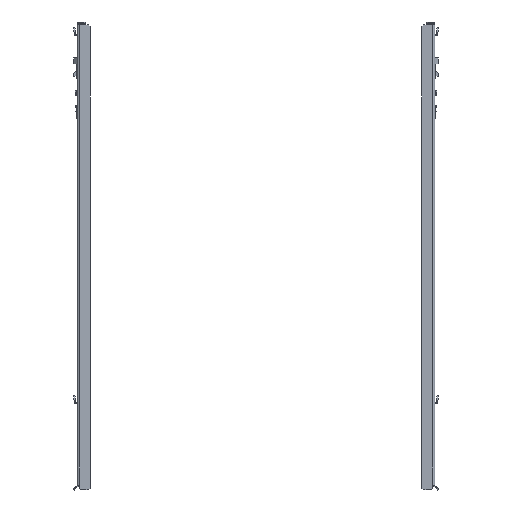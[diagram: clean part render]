
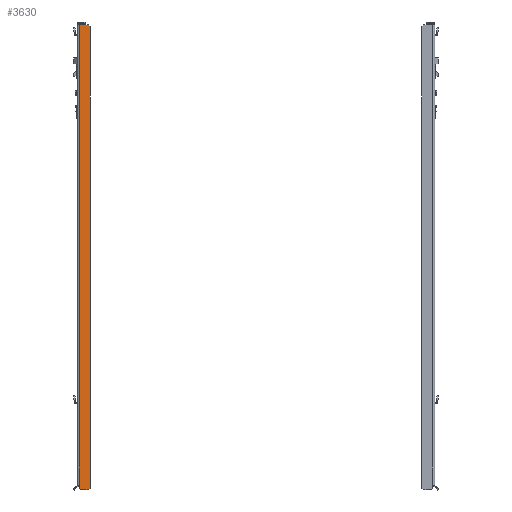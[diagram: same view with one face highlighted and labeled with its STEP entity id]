
A CAD part, front view. The second image highlights one B-rep face of the part: STEP entity #3630.
In plain terms, the highlighted planar face has unit normal (0.018, -1, 0).
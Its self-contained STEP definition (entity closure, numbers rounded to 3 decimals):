
#1=CARTESIAN_POINT('',(3.981,0.069,-351.431));
#2=DIRECTION('',(-0.017,1.,0.));
#3=DIRECTION('',(-0.707,-0.012,-0.707));
#4=AXIS2_PLACEMENT_3D('',#1,#2,#3);
#6=DIRECTION('',(0.,0.,1.));
#7=VECTOR('',#6,4.056);
#8=CARTESIAN_POINT('',(2.981,0.052,-351.431));
#9=LINE('',#8,#7);
#10=DIRECTION('',(1.,0.017,0.));
#11=VECTOR('',#10,13.607);
#12=CARTESIAN_POINT('',(2.981,0.052,352.405));
#13=LINE('',#12,#11);
#14=CARTESIAN_POINT('',(16.586,0.29,351.405));
#15=DIRECTION('',(-0.017,1.,0.));
#16=DIRECTION('',(0.,0.,1.));
#17=AXIS2_PLACEMENT_3D('',#14,#15,#16);
#19=DIRECTION('',(0.707,0.012,-0.707));
#20=VECTOR('',#19,3.414);
#21=CARTESIAN_POINT('',(17.293,0.302,352.112));
#22=LINE('',#21,#20);
#23=CARTESIAN_POINT('',(19.,0.332,348.991));
#24=DIRECTION('',(-0.017,1.,0.));
#25=DIRECTION('',(0.707,0.012,0.707));
#26=AXIS2_PLACEMENT_3D('',#23,#24,#25);
#28=DIRECTION('',(0.,0.,-1.));
#29=VECTOR('',#28,700.422);
#30=CARTESIAN_POINT('',(20.,0.349,348.991));
#31=LINE('',#30,#29);
#32=CARTESIAN_POINT('',(19.,0.332,-351.431));
#33=DIRECTION('',(-0.017,1.,0.));
#34=DIRECTION('',(1.,0.017,0.));
#35=AXIS2_PLACEMENT_3D('',#32,#33,#34);
#37=DIRECTION('',(-0.707,-0.012,-0.707));
#38=VECTOR('',#37,3.414);
#39=CARTESIAN_POINT('',(19.707,0.344,-352.138));
#40=LINE('',#39,#38);
#41=CARTESIAN_POINT('',(16.586,0.29,-353.845));
#42=DIRECTION('',(-0.017,1.,0.));
#43=DIRECTION('',(0.707,0.012,-0.707));
#44=AXIS2_PLACEMENT_3D('',#41,#42,#43);
#46=DIRECTION('',(-1.,-0.017,0.));
#47=VECTOR('',#46,10.193);
#48=CARTESIAN_POINT('',(16.586,0.29,-354.845));
#49=LINE('',#48,#47);
#50=CARTESIAN_POINT('',(6.395,0.112,-353.845));
#51=DIRECTION('',(-0.017,1.,0.));
#52=DIRECTION('',(0.,0.,-1.));
#53=AXIS2_PLACEMENT_3D('',#50,#51,#52);
#55=DIRECTION('',(-0.707,-0.012,0.707));
#56=VECTOR('',#55,3.414);
#57=CARTESIAN_POINT('',(5.688,0.099,-354.552));
#58=LINE('',#57,#56);
#179=DIRECTION('',(0.,0.,-1.));
#180=VECTOR('',#179,699.78);
#181=CARTESIAN_POINT('',(2.981,0.052,352.405));
#182=LINE('',#181,#180);
#2842=CARTESIAN_POINT('',(3.274,0.057,
-352.138));
#2843=CARTESIAN_POINT('',(2.981,0.052,
-351.431));
#2844=VERTEX_POINT('',#2842);
#2845=VERTEX_POINT('',#2843);
#2846=CARTESIAN_POINT('',(2.981,0.052,-347.375));
#2847=VERTEX_POINT('',#2846);
#2848=CARTESIAN_POINT('',(2.981,0.052,352.405));
#2849=VERTEX_POINT('',#2848);
#2850=CARTESIAN_POINT('',(16.586,0.29,352.405));
#2851=VERTEX_POINT('',#2850);
#2852=CARTESIAN_POINT('',(17.293,0.302,352.112));
#2853=VERTEX_POINT('',#2852);
#2854=CARTESIAN_POINT('',(19.707,0.344,349.698));
#2855=VERTEX_POINT('',#2854);
#2856=CARTESIAN_POINT('',(20.,0.349,348.991));
#2857=VERTEX_POINT('',#2856);
#2858=CARTESIAN_POINT('',(20.,0.349,-351.431));
#2859=VERTEX_POINT('',#2858);
#2860=CARTESIAN_POINT('',(19.707,0.344,
-352.138));
#2861=VERTEX_POINT('',#2860);
#2862=CARTESIAN_POINT('',(17.293,0.302,
-354.552));
#2863=VERTEX_POINT('',#2862);
#2864=CARTESIAN_POINT('',(16.586,0.29,-354.845));
#2865=VERTEX_POINT('',#2864);
#2866=CARTESIAN_POINT('',(6.395,0.112,-354.845));
#2867=VERTEX_POINT('',#2866);
#2868=CARTESIAN_POINT('',(5.688,0.099,
-354.552));
#2869=VERTEX_POINT('',#2868);
#3595=CARTESIAN_POINT('',(2.981,0.052,-353.475));
#3596=DIRECTION('',(0.017,-1.,0.));
#3597=DIRECTION('',(1.,0.017,0.));
#3598=AXIS2_PLACEMENT_3D('',#3595,#3596,#3597);
#3599=PLANE('',#3598);
#3601=ORIENTED_EDGE('',*,*,#3600,.T.);
#3603=ORIENTED_EDGE('',*,*,#3602,.T.);
#3605=ORIENTED_EDGE('',*,*,#3604,.F.);
#3607=ORIENTED_EDGE('',*,*,#3606,.T.);
#3609=ORIENTED_EDGE('',*,*,#3608,.T.);
#3611=ORIENTED_EDGE('',*,*,#3610,.T.);
#3613=ORIENTED_EDGE('',*,*,#3612,.T.);
#3615=ORIENTED_EDGE('',*,*,#3614,.T.);
#3617=ORIENTED_EDGE('',*,*,#3616,.T.);
#3619=ORIENTED_EDGE('',*,*,#3618,.T.);
#3621=ORIENTED_EDGE('',*,*,#3620,.T.);
#3623=ORIENTED_EDGE('',*,*,#3622,.T.);
#3625=ORIENTED_EDGE('',*,*,#3624,.T.);
#3627=ORIENTED_EDGE('',*,*,#3626,.T.);
#3628=EDGE_LOOP('',(#3601,#3603,#3605,#3607,#3609,#3611,#3613,#3615,#3617,#3619,
#3621,#3623,#3625,#3627));
#3629=FACE_OUTER_BOUND('',#3628,.F.);
#3630=ADVANCED_FACE('',(#3629),#3599,.T.);
#5=CIRCLE('',#4,1.);
#18=CIRCLE('',#17,1.);
#27=CIRCLE('',#26,1.);
#36=CIRCLE('',#35,1.);
#45=CIRCLE('',#44,1.);
#54=CIRCLE('',#53,1.);
#3600=EDGE_CURVE('',#2844,#2845,#5,.T.);
#3602=EDGE_CURVE('',#2845,#2847,#9,.T.);
#3604=EDGE_CURVE('',#2849,#2847,#182,.T.);
#3606=EDGE_CURVE('',#2849,#2851,#13,.T.);
#3608=EDGE_CURVE('',#2851,#2853,#18,.T.);
#3610=EDGE_CURVE('',#2853,#2855,#22,.T.);
#3612=EDGE_CURVE('',#2855,#2857,#27,.T.);
#3614=EDGE_CURVE('',#2857,#2859,#31,.T.);
#3616=EDGE_CURVE('',#2859,#2861,#36,.T.);
#3618=EDGE_CURVE('',#2861,#2863,#40,.T.);
#3620=EDGE_CURVE('',#2863,#2865,#45,.T.);
#3622=EDGE_CURVE('',#2865,#2867,#49,.T.);
#3624=EDGE_CURVE('',#2867,#2869,#54,.T.);
#3626=EDGE_CURVE('',#2869,#2844,#58,.T.);
